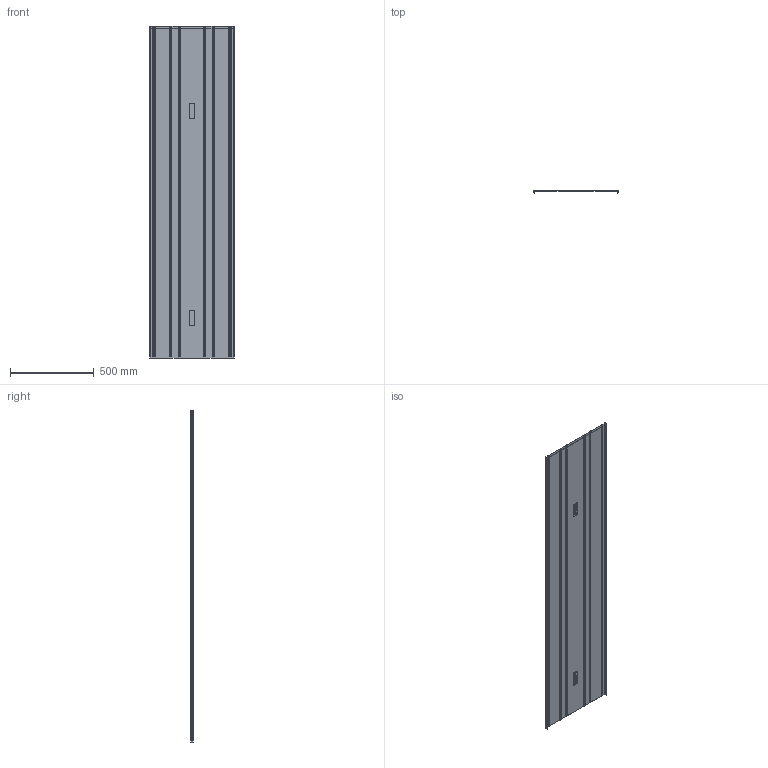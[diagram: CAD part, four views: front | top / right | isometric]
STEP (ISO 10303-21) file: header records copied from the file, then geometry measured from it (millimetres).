
FILE_DESCRIPTION (( 'STEP AP203' ), '1' );
FILE_NAME ('Tapa TERE 400-600 500.step', '2023-07-27T19:00:27', ( '' ), ( '' ), 'SwSTEP 2.0', 'SolidWorks 2022', '' );
FILE_SCHEMA (( 'CONFIG_CONTROL_DESIGN' ));
Length unit declared in the file: millimetre
Products named in the file (1): Tapa TERE 400-600 500
Bounding box: 502 x 15.5 x 1978 mm (x, y, z)
Surface area: 2127070 mm2 (no closed solid volume)
Topology: 0 solids, 13 shells, 613 faces, 1863 edges, 1277 vertices
Faces by surface type: plane 360, cylinder 138, bspline 99, torus 16
Entity records: 26616 total; most frequent: CARTESIAN_POINT 10234, ORIENTED_EDGE 3590, DIRECTION 3103, EDGE_CURVE 1861, VERTEX_POINT 1277, VECTOR 1075, LINE 1075, AXIS2_PLACEMENT_3D 1014
